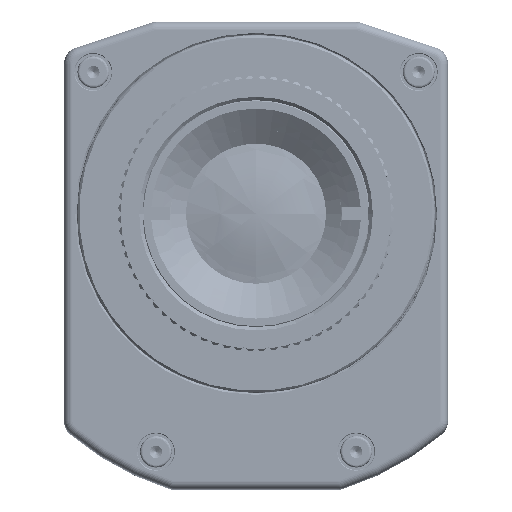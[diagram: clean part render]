
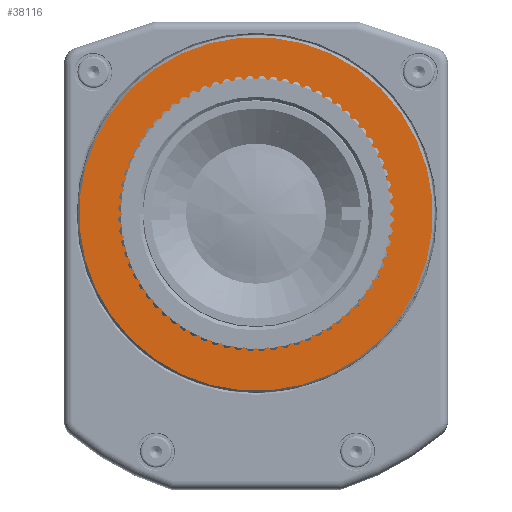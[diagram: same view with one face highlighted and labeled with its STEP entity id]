
A CAD part, top view. The second image highlights one B-rep face of the part: STEP entity #38116.
In plain terms, the highlighted planar face has unit normal (0, 0, 1).
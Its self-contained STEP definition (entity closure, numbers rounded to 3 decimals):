
#2671 = DIRECTION ( 'NONE',  ( -1., 0., 0. ) ) ;
#2866 = DIRECTION ( 'NONE',  ( 0., 0., 1. ) ) ;
#3659 = CARTESIAN_POINT ( 'NONE',  ( 0., 0., 11.5 ) ) ;
#4351 = CIRCLE ( 'NONE', #47990, 21.2 ) ;
#8989 = EDGE_CURVE ( 'NONE', #45325, #45325, #4351, .T. ) ;
#18654 = ORIENTED_EDGE ( 'NONE', *, *, #8989, .T. ) ;
#19778 = ORIENTED_EDGE ( 'NONE', *, *, #68358, .F. ) ;
#22539 = VERTEX_POINT ( 'NONE', #46364 ) ;
#28238 = CIRCLE ( 'NONE', #71477, 15. ) ;
#33416 = DIRECTION ( 'NONE',  ( 1., 0., 0. ) ) ;
#33495 = DIRECTION ( 'NONE',  ( 0., 0., 1. ) ) ;
#33509 = CARTESIAN_POINT ( 'NONE',  ( 0., 0., 11.5 ) ) ;
#38116 = ADVANCED_FACE ( 'NONE', ( #63256, #63244 ), #63141, .F. ) ;
#45325 = VERTEX_POINT ( 'NONE', #68820 ) ;
#46364 = CARTESIAN_POINT ( 'NONE',  ( 15., 0., 11.5 ) ) ;
#47990 = AXIS2_PLACEMENT_3D ( 'NONE', #3659, #2866, #2671 ) ;
#55108 = EDGE_LOOP ( 'NONE', ( #18654 ) ) ;
#62977 = DIRECTION ( 'NONE',  ( -1., 0., 0. ) ) ;
#63040 = DIRECTION ( 'NONE',  ( 0., 0., -1. ) ) ;
#63049 = CARTESIAN_POINT ( 'NONE',  ( 0., 21.4, 11.5 ) ) ;
#63141 = PLANE ( 'NONE',  #76424 ) ;
#63244 = FACE_BOUND ( 'NONE', #69473, .T. ) ;
#63256 = FACE_OUTER_BOUND ( 'NONE', #55108, .T. ) ;
#68358 = EDGE_CURVE ( 'NONE', #22539, #22539, #28238, .T. ) ;
#68820 = CARTESIAN_POINT ( 'NONE',  ( -21.2, 0., 11.5 ) ) ;
#69473 = EDGE_LOOP ( 'NONE', ( #19778 ) ) ;
#71477 = AXIS2_PLACEMENT_3D ( 'NONE', #33509, #33495, #33416 ) ;
#76424 = AXIS2_PLACEMENT_3D ( 'NONE', #63049, #63040, #62977 ) ;
